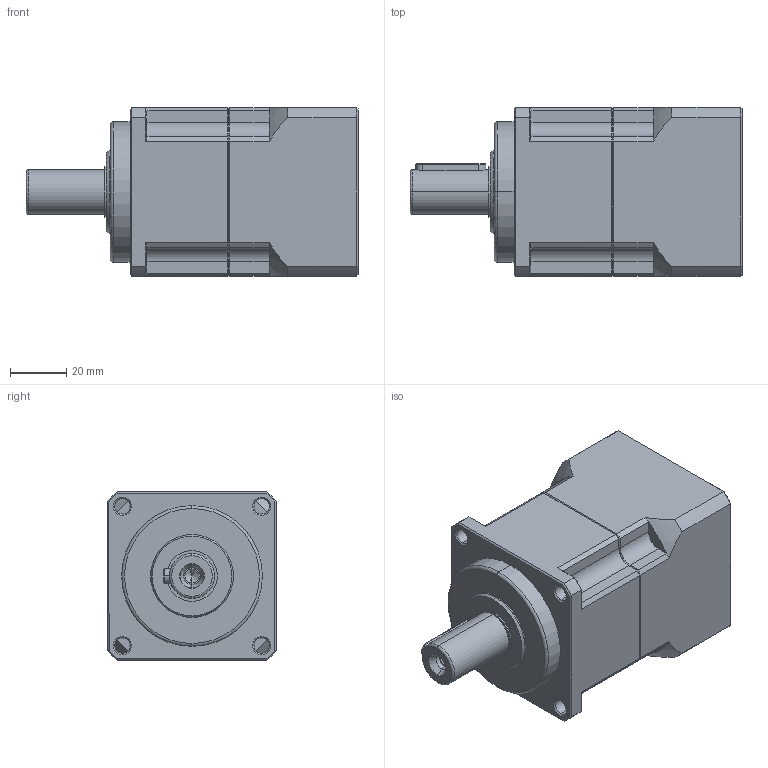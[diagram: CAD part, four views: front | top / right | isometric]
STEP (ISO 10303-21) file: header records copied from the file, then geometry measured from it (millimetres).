
FILE_DESCRIPTION (( 'STEP AP203' ), '1' );
FILE_NAME ('TB060-L1-14-50-70-M4-34-5.5.STEP', '2020-07-20T05:19:17', ( '' ), ( '' ), 'SwSTEP 2.0', 'SolidWorks 2017', '' );
FILE_SCHEMA (( 'CONFIG_CONTROL_DESIGN' ));
Length unit declared in the file: millimetre
Products named in the file (1): TB060-L1-14-50-70-M4-34-5.5
Bounding box: 118 x 60 x 60 mm (x, y, z)
Volume: 262318 mm3; surface area: 47686 mm2
Topology: 4 solids, 4 shells, 286 faces, 662 edges, 391 vertices
Faces by surface type: plane 101, cylinder 91, cone 80, torus 14
Entity records: 8348 total; most frequent: CARTESIAN_POINT 1794, DIRECTION 1414, ORIENTED_EDGE 1304, EDGE_CURVE 652, AXIS2_PLACEMENT_3D 554, VERTEX_POINT 391, EDGE_LOOP 315, LINE 306
